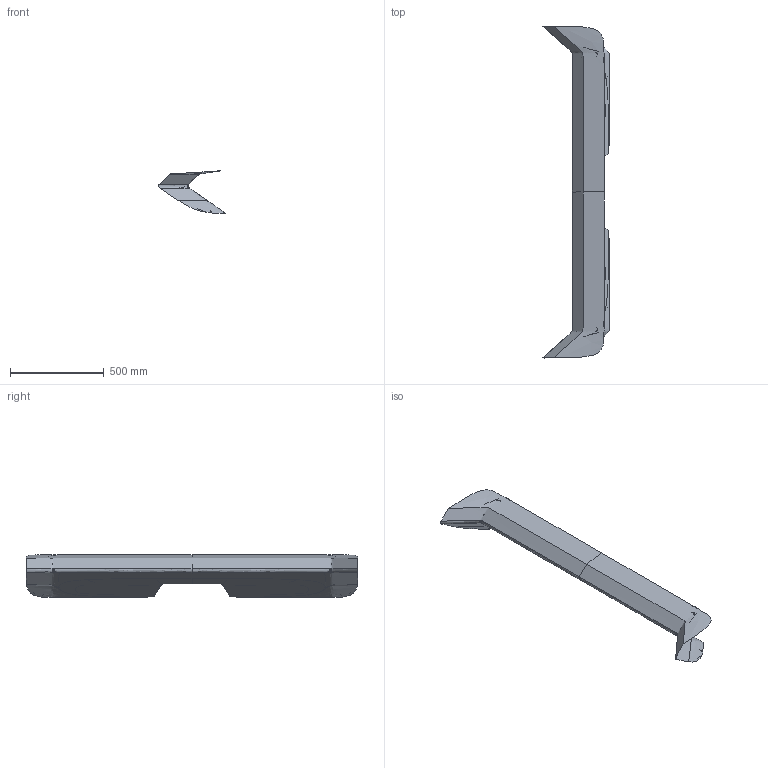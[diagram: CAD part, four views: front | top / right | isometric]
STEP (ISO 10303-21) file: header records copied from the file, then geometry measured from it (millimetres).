
FILE_DESCRIPTION(('Liger macro NURBS open sheets'),'2;1');
FILE_NAME('Body_Front_Cowl.step','2026-11-01T00:00:00',(''),(''),'Slate','SolidArc','');
FILE_SCHEMA(('AUTOMOTIVE_DESIGN { 1 0 10303 214 1 1 1 1 }'));
Length unit declared in the file: millimetre
Products named in the file (1): Body_Front_Cowl
Bounding box: 354 x 1774.65 x 226.38 mm (x, y, z)
Surface area: 781330.8 mm2 (no closed solid volume)
Topology: 0 solids, 4 shells, 14 faces, 45 edges, 30 vertices
Faces by surface type: bspline 14
Entity records: 3035 total; most frequent: CARTESIAN_POINT 2780, ORIENTED_EDGE 62, B_SPLINE_CURVE_WITH_KNOTS 45, EDGE_CURVE 45, VERTEX_POINT 30, B_SPLINE_SURFACE_WITH_KNOTS 14, EDGE_LOOP 14, FACE_OUTER_BOUND 14
